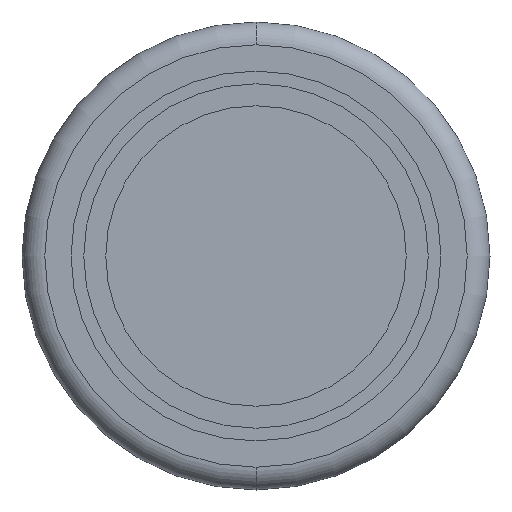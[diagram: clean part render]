
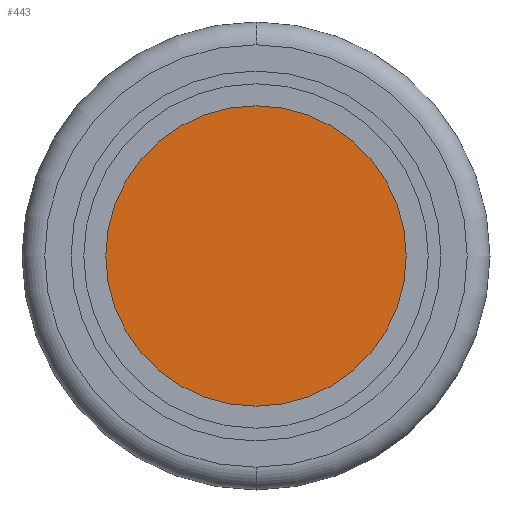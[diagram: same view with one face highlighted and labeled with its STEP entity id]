
A CAD part, front view. The second image highlights one B-rep face of the part: STEP entity #443.
In plain terms, the highlighted planar face has unit normal (0, -1, 0).
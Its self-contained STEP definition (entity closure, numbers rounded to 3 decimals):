
#78 = VERTEX_POINT ( 'NONE', #998 ) ;
#195 = ORIENTED_EDGE ( 'NONE', *, *, #276, .F. ) ;
#199 = DIRECTION ( 'NONE',  ( 0., 1., 0. ) ) ;
#201 = AXIS2_PLACEMENT_3D ( 'NONE', #959, #969, #280 ) ;
#235 = CARTESIAN_POINT ( 'NONE',  ( 0., -43.3, 0. ) ) ;
#276 = EDGE_CURVE ( 'NONE', #956, #78, #686, .T. ) ;
#280 = DIRECTION ( 'NONE',  ( 0., 0., 1. ) ) ;
#284 = AXIS2_PLACEMENT_3D ( 'NONE', #235, #922, #336 ) ;
#290 = AXIS2_PLACEMENT_3D ( 'NONE', #1067, #199, #984 ) ;
#324 = CARTESIAN_POINT ( 'NONE',  ( 0., -43.3, 13. ) ) ;
#336 = DIRECTION ( 'NONE',  ( 0., 0., 1. ) ) ;
#443 = ADVANCED_FACE ( 'NONE', ( #923 ), #1065, .F. ) ;
#493 = CIRCLE ( 'NONE', #284, 13. ) ;
#583 = ORIENTED_EDGE ( 'NONE', *, *, #995, .F. ) ;
#686 = CIRCLE ( 'NONE', #290, 13. ) ;
#881 = EDGE_LOOP ( 'NONE', ( #195, #583 ) ) ;
#922 = DIRECTION ( 'NONE',  ( 0., 1., 0. ) ) ;
#923 = FACE_OUTER_BOUND ( 'NONE', #881, .T. ) ;
#956 = VERTEX_POINT ( 'NONE', #324 ) ;
#959 = CARTESIAN_POINT ( 'NONE',  ( 0., -43.3, 0. ) ) ;
#969 = DIRECTION ( 'NONE',  ( 0., 1., 0. ) ) ;
#984 = DIRECTION ( 'NONE',  ( 0., 0., 1. ) ) ;
#995 = EDGE_CURVE ( 'NONE', #78, #956, #493, .T. ) ;
#998 = CARTESIAN_POINT ( 'NONE',  ( 0., -43.3, -13. ) ) ;
#1065 = PLANE ( 'NONE',  #201 ) ;
#1067 = CARTESIAN_POINT ( 'NONE',  ( 0., -43.3, 0. ) ) ;
